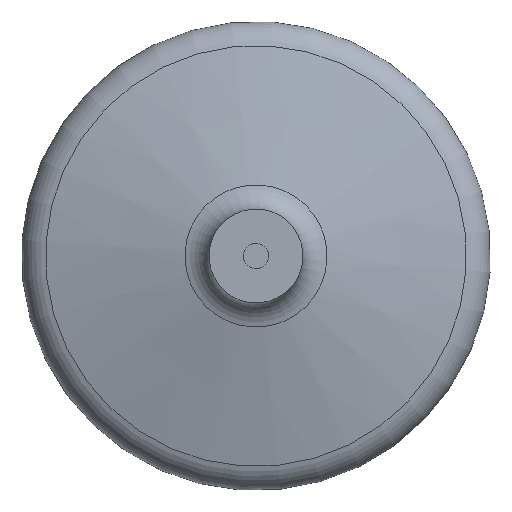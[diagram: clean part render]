
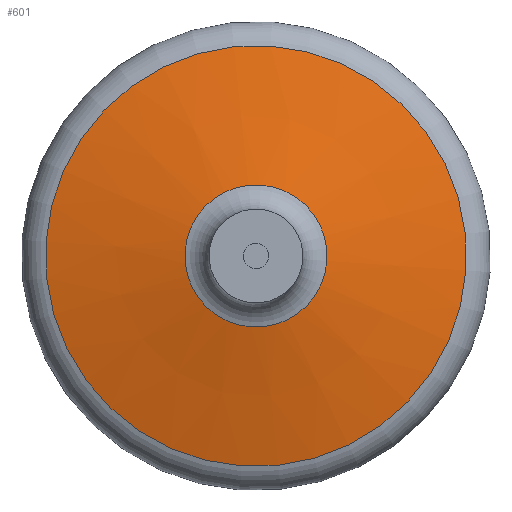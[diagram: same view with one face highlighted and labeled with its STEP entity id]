
A CAD part, front view. The second image highlights one B-rep face of the part: STEP entity #601.
In plain terms, the highlighted conical face has half-angle 76.848 degrees and reference radius 45 mm.
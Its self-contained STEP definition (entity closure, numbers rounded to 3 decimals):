
#39=CONICAL_SURFACE('',#724,45.,1.341);
#66=FACE_OUTER_BOUND('',#98,.T.);
#98=EDGE_LOOP('',(#467,#468,#469,#470,#471,#472,#473,#474));
#124=LINE('',#1127,#138);
#138=VECTOR('',#898,45.);
#177=CIRCLE('',#720,22.725);
#178=CIRCLE('',#721,22.725);
#179=CIRCLE('',#722,22.725);
#181=CIRCLE('',#725,67.275);
#182=CIRCLE('',#726,67.275);
#183=CIRCLE('',#727,67.275);
#255=VERTEX_POINT('',#1114);
#256=VERTEX_POINT('',#1115);
#257=VERTEX_POINT('',#1117);
#258=VERTEX_POINT('',#1122);
#259=VERTEX_POINT('',#1123);
#260=VERTEX_POINT('',#1125);
#334=EDGE_CURVE('',#255,#256,#177,.T.);
#335=EDGE_CURVE('',#257,#255,#178,.T.);
#336=EDGE_CURVE('',#256,#257,#179,.T.);
#338=EDGE_CURVE('',#258,#259,#181,.T.);
#339=EDGE_CURVE('',#260,#258,#182,.T.);
#340=EDGE_CURVE('',#260,#257,#124,.T.);
#341=EDGE_CURVE('',#259,#260,#183,.T.);
#467=ORIENTED_EDGE('',*,*,#338,.F.);
#468=ORIENTED_EDGE('',*,*,#339,.F.);
#469=ORIENTED_EDGE('',*,*,#340,.T.);
#470=ORIENTED_EDGE('',*,*,#335,.T.);
#471=ORIENTED_EDGE('',*,*,#334,.T.);
#472=ORIENTED_EDGE('',*,*,#336,.T.);
#473=ORIENTED_EDGE('',*,*,#340,.F.);
#474=ORIENTED_EDGE('',*,*,#341,.F.);
#601=ADVANCED_FACE('',(#66),#39,.T.);
#720=AXIS2_PLACEMENT_3D('',#1116,#884,#885);
#721=AXIS2_PLACEMENT_3D('',#1118,#886,#887);
#722=AXIS2_PLACEMENT_3D('',#1119,#888,#889);
#724=AXIS2_PLACEMENT_3D('',#1121,#892,#893);
#725=AXIS2_PLACEMENT_3D('',#1124,#894,#895);
#726=AXIS2_PLACEMENT_3D('',#1126,#896,#897);
#727=AXIS2_PLACEMENT_3D('',#1128,#899,#900);
#884=DIRECTION('center_axis',(0.,-1.,0.));
#885=DIRECTION('ref_axis',(1.,0.,0.));
#886=DIRECTION('center_axis',(0.,-1.,0.));
#887=DIRECTION('ref_axis',(1.,0.,0.));
#888=DIRECTION('center_axis',(0.,-1.,0.));
#889=DIRECTION('ref_axis',(1.,0.,0.));
#892=DIRECTION('center_axis',(0.,-1.,0.));
#893=DIRECTION('ref_axis',(1.,0.,0.));
#894=DIRECTION('center_axis',(0.,-1.,0.));
#895=DIRECTION('ref_axis',(1.,0.,0.));
#896=DIRECTION('center_axis',(0.,-1.,0.));
#897=DIRECTION('ref_axis',(1.,0.,0.));
#898=DIRECTION('',(0.974,0.228,0.));
#899=DIRECTION('center_axis',(0.,-1.,0.));
#900=DIRECTION('ref_axis',(1.,0.,0.));
#1114=CARTESIAN_POINT('',(22.725,164.901,0.));
#1115=CARTESIAN_POINT('',(0.,164.901,22.725));
#1116=CARTESIAN_POINT('Origin',(0.,164.901,0.));
#1117=CARTESIAN_POINT('',(-22.725,164.901,0.));
#1118=CARTESIAN_POINT('Origin',(0.,164.901,0.));
#1119=CARTESIAN_POINT('Origin',(0.,164.901,0.));
#1121=CARTESIAN_POINT('Origin',(0.,159.697,0.));
#1122=CARTESIAN_POINT('',(67.275,154.492,0.));
#1123=CARTESIAN_POINT('',(0.,154.492,67.275));
#1124=CARTESIAN_POINT('Origin',(0.,154.492,0.));
#1125=CARTESIAN_POINT('',(-67.275,154.492,0.));
#1126=CARTESIAN_POINT('Origin',(0.,154.492,0.));
#1127=CARTESIAN_POINT('',(-45.,159.697,0.));
#1128=CARTESIAN_POINT('Origin',(0.,154.492,0.));
